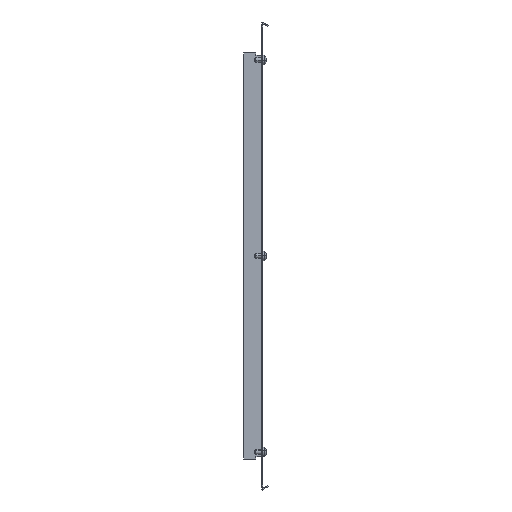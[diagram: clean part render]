
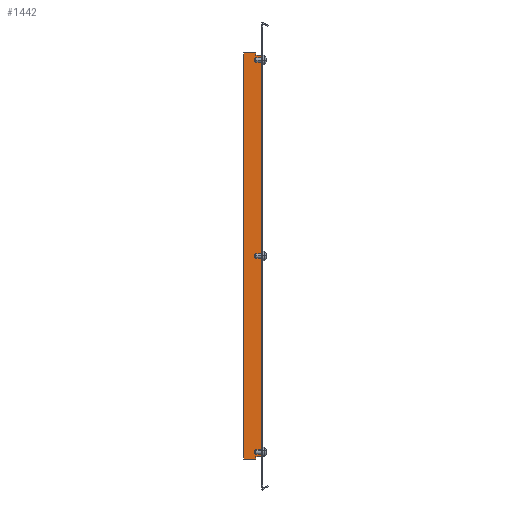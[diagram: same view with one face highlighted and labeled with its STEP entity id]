
A CAD part, left-side view. The second image highlights one B-rep face of the part: STEP entity #1442.
In plain terms, the highlighted planar face has unit normal (-1, 0, 0).
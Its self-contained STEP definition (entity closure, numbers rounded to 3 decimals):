
#31 = ORIENTED_EDGE ( 'NONE', *, *, #9889, .F. ) ;
#44 = CARTESIAN_POINT ( 'NONE',  ( 1.5, -1.5, 0. ) ) ;
#119 = EDGE_CURVE ( 'NONE', #5970, #8171, #10766, .T. ) ;
#615 = LINE ( 'NONE', #12018, #3215 ) ;
#799 = DIRECTION ( 'NONE',  ( 0., 0., -1. ) ) ;
#857 = EDGE_CURVE ( 'NONE', #12790, #13232, #6711, .T. ) ;
#875 = CARTESIAN_POINT ( 'NONE',  ( 1.5, 5.75, -256.75 ) ) ;
#931 = VECTOR ( 'NONE', #5099, 1000. ) ;
#942 = EDGE_CURVE ( 'NONE', #10773, #13378, #13094, .T. ) ;
#984 = LINE ( 'NONE', #6405, #931 ) ;
#1069 = CARTESIAN_POINT ( 'NONE',  ( 1.5, 5.75, 256.75 ) ) ;
#1098 = LINE ( 'NONE', #1377, #6935 ) ;
#1109 = CARTESIAN_POINT ( 'NONE',  ( 1.5, -1.5, 256.25 ) ) ;
#1187 = EDGE_CURVE ( 'NONE', #2115, #9191, #3317, .T. ) ;
#1192 = FACE_OUTER_BOUND ( 'NONE', #13147, .T. ) ;
#1377 = CARTESIAN_POINT ( 'NONE',  ( 1.5, -0.5, -256.25 ) ) ;
#1442 = ADVANCED_FACE ( 'NONE', ( #1192 ), #3423, .T. ) ;
#1529 = CARTESIAN_POINT ( 'NONE',  ( 1.5, 21.5, -259.25 ) ) ;
#1926 = DIRECTION ( 'NONE',  ( 0., 0., 1. ) ) ;
#2017 = LINE ( 'NONE', #44, #11582 ) ;
#2100 = VERTEX_POINT ( 'NONE', #1109 ) ;
#2115 = VERTEX_POINT ( 'NONE', #11488 ) ;
#2395 = CARTESIAN_POINT ( 'NONE',  ( 1.5, 5.75, -259.25 ) ) ;
#2549 = LINE ( 'NONE', #10814, #9432 ) ;
#2551 = CARTESIAN_POINT ( 'NONE',  ( 1.5, 21.5, 256.75 ) ) ;
#2632 = ORIENTED_EDGE ( 'NONE', *, *, #5436, .T. ) ;
#2982 = CARTESIAN_POINT ( 'NONE',  ( 1.5, 5.75, -256.25 ) ) ;
#3003 = ORIENTED_EDGE ( 'NONE', *, *, #3080, .F. ) ;
#3038 = VECTOR ( 'NONE', #12146, 1000. ) ;
#3080 = EDGE_CURVE ( 'NONE', #9191, #2100, #615, .T. ) ;
#3129 = ORIENTED_EDGE ( 'NONE', *, *, #9801, .F. ) ;
#3215 = VECTOR ( 'NONE', #9866, 1000. ) ;
#3296 = DIRECTION ( 'NONE',  ( 0., 0., 1. ) ) ;
#3317 = LINE ( 'NONE', #5403, #5462 ) ;
#3376 = CARTESIAN_POINT ( 'NONE',  ( 1.5, 5.75, -256.75 ) ) ;
#3423 = PLANE ( 'NONE',  #10028 ) ;
#3605 = VERTEX_POINT ( 'NONE', #4677 ) ;
#3655 = CARTESIAN_POINT ( 'NONE',  ( 1.5, 21.5, 259.25 ) ) ;
#3713 = VECTOR ( 'NONE', #799, 1000. ) ;
#4008 = CARTESIAN_POINT ( 'NONE',  ( 1.5, 21.5, 0. ) ) ;
#4363 = CARTESIAN_POINT ( 'NONE',  ( 1.5, 0., 0. ) ) ;
#4461 = ORIENTED_EDGE ( 'NONE', *, *, #7802, .F. ) ;
#4475 = CARTESIAN_POINT ( 'NONE',  ( 1.5, 5.75, 256.75 ) ) ;
#4619 = CARTESIAN_POINT ( 'NONE',  ( 1.5, -0.5, 256.25 ) ) ;
#4677 = CARTESIAN_POINT ( 'NONE',  ( 1.5, -0.5, -256.25 ) ) ;
#4858 = ORIENTED_EDGE ( 'NONE', *, *, #9915, .F. ) ;
#5099 = DIRECTION ( 'NONE',  ( 0., 1., 0. ) ) ;
#5110 = DIRECTION ( 'NONE',  ( 0., 0., -1. ) ) ;
#5183 = DIRECTION ( 'NONE',  ( 0., 0., -1. ) ) ;
#5307 = DIRECTION ( 'NONE',  ( -1., 0., 0. ) ) ;
#5364 = VERTEX_POINT ( 'NONE', #4475 ) ;
#5403 = CARTESIAN_POINT ( 'NONE',  ( 1.5, -1.5, 256.25 ) ) ;
#5436 = EDGE_CURVE ( 'NONE', #3605, #5464, #1098, .T. ) ;
#5462 = VECTOR ( 'NONE', #7367, 1000. ) ;
#5464 = VERTEX_POINT ( 'NONE', #9662 ) ;
#5493 = VERTEX_POINT ( 'NONE', #2395 ) ;
#5622 = EDGE_CURVE ( 'NONE', #2100, #5464, #2017, .T. ) ;
#5703 = CARTESIAN_POINT ( 'NONE',  ( 1.5, 0., 259.25 ) ) ;
#5970 = VERTEX_POINT ( 'NONE', #875 ) ;
#6360 = LINE ( 'NONE', #10496, #9122 ) ;
#6405 = CARTESIAN_POINT ( 'NONE',  ( 1.5, 0., -259.25 ) ) ;
#6421 = LINE ( 'NONE', #10554, #10231 ) ;
#6484 = DIRECTION ( 'NONE',  ( 0., 1., 0. ) ) ;
#6711 = LINE ( 'NONE', #11998, #11779 ) ;
#6935 = VECTOR ( 'NONE', #11543, 1000. ) ;
#7062 = LINE ( 'NONE', #4008, #3038 ) ;
#7367 = DIRECTION ( 'NONE',  ( 0., -1., 0. ) ) ;
#7492 = VERTEX_POINT ( 'NONE', #2551 ) ;
#7630 = VECTOR ( 'NONE', #10553, 1000. ) ;
#7658 = VECTOR ( 'NONE', #9851, 1000. ) ;
#7672 = DIRECTION ( 'NONE',  ( 0., 0., -1. ) ) ;
#7680 = ORIENTED_EDGE ( 'NONE', *, *, #857, .T. ) ;
#7781 = ORIENTED_EDGE ( 'NONE', *, *, #942, .F. ) ;
#7802 = EDGE_CURVE ( 'NONE', #7492, #10773, #7062, .T. ) ;
#7853 = LINE ( 'NONE', #11992, #3713 ) ;
#7940 = ORIENTED_EDGE ( 'NONE', *, *, #119, .T. ) ;
#8140 = ORIENTED_EDGE ( 'NONE', *, *, #11936, .F. ) ;
#8171 = VERTEX_POINT ( 'NONE', #2982 ) ;
#8245 = LINE ( 'NONE', #1069, #10242 ) ;
#8901 = CARTESIAN_POINT ( 'NONE',  ( 1.5, 5.75, 259.25 ) ) ;
#8992 = EDGE_CURVE ( 'NONE', #12790, #7492, #6360, .T. ) ;
#9122 = VECTOR ( 'NONE', #10558, 1000. ) ;
#9191 = VERTEX_POINT ( 'NONE', #4619 ) ;
#9432 = VECTOR ( 'NONE', #1926, 1000. ) ;
#9454 = ORIENTED_EDGE ( 'NONE', *, *, #5622, .F. ) ;
#9639 = ORIENTED_EDGE ( 'NONE', *, *, #13310, .T. ) ;
#9662 = CARTESIAN_POINT ( 'NONE',  ( 1.5, -1.5, -256.25 ) ) ;
#9747 = ORIENTED_EDGE ( 'NONE', *, *, #1187, .F. ) ;
#9801 = EDGE_CURVE ( 'NONE', #3605, #8171, #6421, .T. ) ;
#9851 = DIRECTION ( 'NONE',  ( 0., -1., 0. ) ) ;
#9866 = DIRECTION ( 'NONE',  ( 0., -1., 0. ) ) ;
#9889 = EDGE_CURVE ( 'NONE', #5970, #5493, #7853, .T. ) ;
#9915 = EDGE_CURVE ( 'NONE', #5364, #2115, #8245, .T. ) ;
#10028 = AXIS2_PLACEMENT_3D ( 'NONE', #4363, #5307, #3296 ) ;
#10231 = VECTOR ( 'NONE', #6484, 1000. ) ;
#10242 = VECTOR ( 'NONE', #5183, 1000. ) ;
#10496 = CARTESIAN_POINT ( 'NONE',  ( 1.5, 21.5, 256.25 ) ) ;
#10553 = DIRECTION ( 'NONE',  ( 0., 0., 1. ) ) ;
#10554 = CARTESIAN_POINT ( 'NONE',  ( 1.5, 21.5, -256.25 ) ) ;
#10558 = DIRECTION ( 'NONE',  ( 0., 0., 1. ) ) ;
#10766 = LINE ( 'NONE', #3376, #7630 ) ;
#10773 = VERTEX_POINT ( 'NONE', #3655 ) ;
#10814 = CARTESIAN_POINT ( 'NONE',  ( 1.5, 5.75, 256.75 ) ) ;
#11488 = CARTESIAN_POINT ( 'NONE',  ( 1.5, 5.75, 256.25 ) ) ;
#11543 = DIRECTION ( 'NONE',  ( 0., -1., 0. ) ) ;
#11582 = VECTOR ( 'NONE', #5110, 1000. ) ;
#11779 = VECTOR ( 'NONE', #7672, 1000. ) ;
#11845 = CARTESIAN_POINT ( 'NONE',  ( 1.5, 21.5, -256.75 ) ) ;
#11936 = EDGE_CURVE ( 'NONE', #5493, #13232, #984, .T. ) ;
#11992 = CARTESIAN_POINT ( 'NONE',  ( 1.5, 5.75, 0. ) ) ;
#11998 = CARTESIAN_POINT ( 'NONE',  ( 1.5, 21.5, -256.75 ) ) ;
#12018 = CARTESIAN_POINT ( 'NONE',  ( 1.5, 0., 256.25 ) ) ;
#12146 = DIRECTION ( 'NONE',  ( 0., 0., 1. ) ) ;
#12790 = VERTEX_POINT ( 'NONE', #11845 ) ;
#13094 = LINE ( 'NONE', #5703, #7658 ) ;
#13147 = EDGE_LOOP ( 'NONE', ( #3129, #2632, #9454, #3003, #9747, #4858, #9639, #7781, #4461, #13387, #7680, #8140, #31, #7940 ) ) ;
#13232 = VERTEX_POINT ( 'NONE', #1529 ) ;
#13310 = EDGE_CURVE ( 'NONE', #5364, #13378, #2549, .T. ) ;
#13378 = VERTEX_POINT ( 'NONE', #8901 ) ;
#13387 = ORIENTED_EDGE ( 'NONE', *, *, #8992, .F. ) ;
